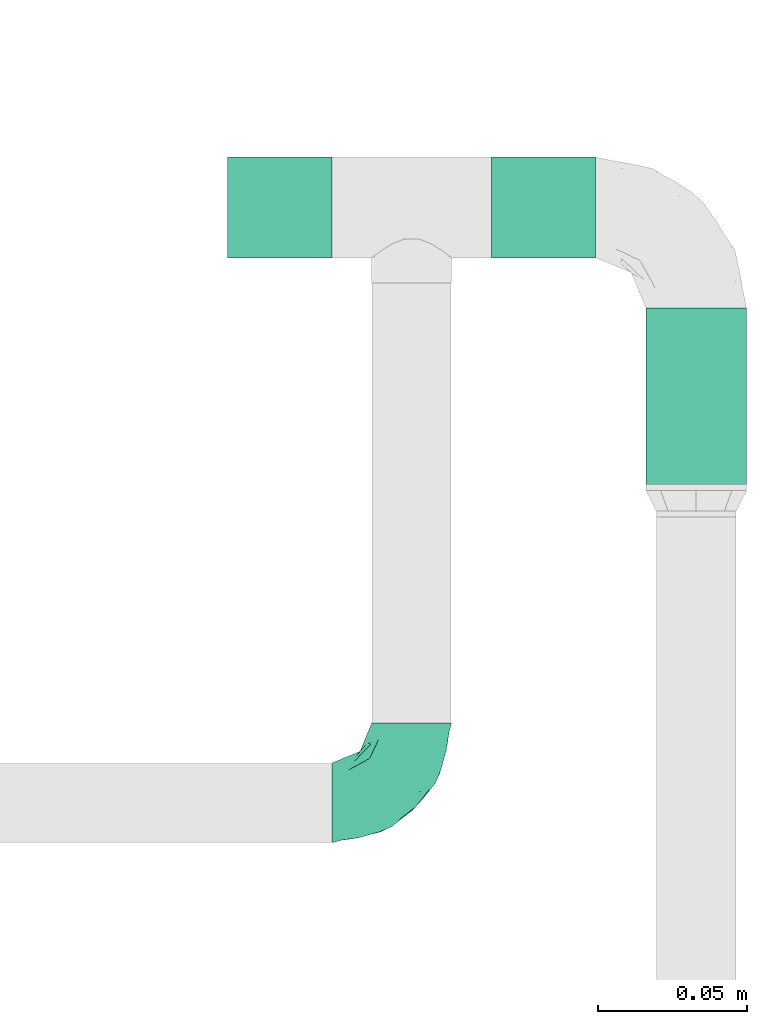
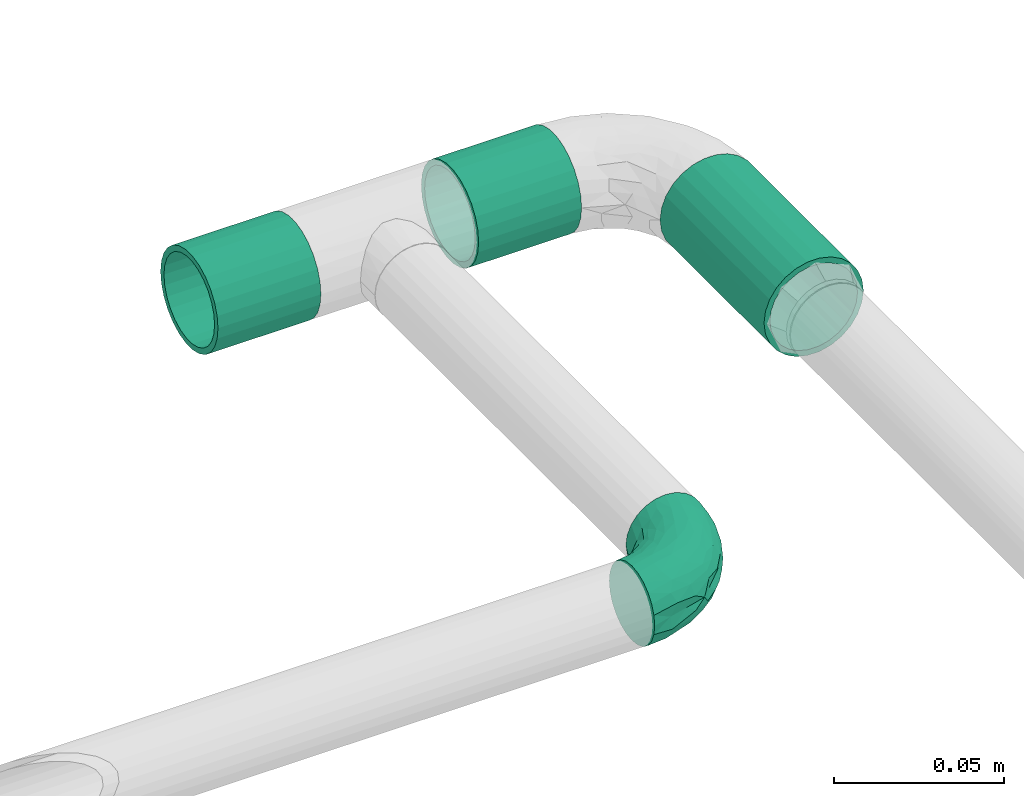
# One storey, part 9 of 13: 3 flow segments, 1 flow fitting.
"""IFC2X3 building model written with IfcOpenShell, lengths in millimetres."""

import ifcopenshell
import ifcopenshell.guid

model = None  # the IFC model being written
_history = None  # IfcOwnerHistory: only IFC2X3 demands one
_inside = {}  # id of a spatial element -> (the spatial element, [elements in it])
_under = {}  # id of a project, library or spatial element -> (it, [spatial elements below it])
_declared = {}  # id of a project -> (the project, [libraries it declares])
_typed = {}  # id of a type object -> (the type object, [elements of that type])
_made_of = {}  # id of a material, layer set ... -> (it, [elements and type objects made of it])


def new_model(schema):
    """Start an empty IFC model of exactly this schema.

    Asked for "IFC4X3", IfcOpenShell would pick the latest addendum, in which some entities
    have other attributes; the version numbers below select the first issue.
    IFC2X3 requires an IfcOwnerHistory on every rooted entity: one is made here for all.
    """
    global model, _history
    if schema == "IFC4X3":
        model = ifcopenshell.file(schema_version=(4, 3, 0, 0))
    else:
        model = ifcopenshell.file(schema=schema)
    _inside.clear()
    _under.clear()
    _declared.clear()
    _typed.clear()
    _made_of.clear()
    _history = None
    if model.schema == "IFC2X3":
        org = make("IfcOrganization", Name="unknown")
        user = make(
            "IfcPersonAndOrganization",
            ThePerson=make("IfcPerson", FamilyName="unknown"),
            TheOrganization=org,
        )
        app = make(
            "IfcApplication",
            ApplicationDeveloper=org,
            Version="unknown",
            ApplicationFullName="unknown",
            ApplicationIdentifier="unknown",
        )
        _history = make(
            "IfcOwnerHistory",
            OwningUser=user,
            OwningApplication=app,
            ChangeAction="ADDED",
            CreationDate=0,
        )
    return model


def make(cls, **values):
    """One entity of the class cls with the attributes given. An attribute that is None is left unset."""
    return model.create_entity(
        cls, **{name: value for name, value in values.items() if value is not None}
    )


def entity(cls, *values):
    """Any entity or typed value of the class cls, its attributes in the order of the schema. None: left unset."""
    e = model.create_entity(cls)
    for i, value in enumerate(values):
        if value is not None:
            e[i] = value
    return e


def rooted(cls, **values):
    """An entity with a GlobalId (a new one), such as an element, a storey or a relation."""
    return make(cls, GlobalId=ifcopenshell.guid.new(), OwnerHistory=_history, **values)


def si_unit(unit_type, name, prefix=None):
    """IfcSIUnit, for example si_unit("LENGTHUNIT", "METRE", prefix="MILLI")."""
    return make("IfcSIUnit", UnitType=unit_type, Prefix=prefix, Name=name)


def converted_unit(unit_type, name, factor, base, dimensions=None, offset=None):
    """IfcConversionBasedUnit, such as the inch: factor (a typed value) times the base unit."""
    return make(
        "IfcConversionBasedUnit"
        if offset is None
        else "IfcConversionBasedUnitWithOffset",
        ConversionOffset=offset,
        Dimensions=None
        if dimensions is None
        else entity("IfcDimensionalExponents", *dimensions),
        UnitType=unit_type,
        Name=name,
        ConversionFactor=make(
            "IfcMeasureWithUnit", ValueComponent=factor, UnitComponent=base
        ),
    )


def derived_unit(unit_type, elements):
    """IfcDerivedUnit: a product of units, each with its exponent."""
    return make(
        "IfcDerivedUnit",
        Elements=[
            make("IfcDerivedUnitElement", Unit=unit, Exponent=power)
            for unit, power in elements
        ],
        UnitType=unit_type,
    )


def assignment(units):
    """IfcUnitAssignment: the units of a project."""
    return None if units is None else make("IfcUnitAssignment", Units=units)


def point(xyz):
    """IfcCartesianPoint."""
    return None if xyz is None else make("IfcCartesianPoint", Coordinates=xyz)


def direction(xyz):
    """IfcDirection."""
    return None if xyz is None else make("IfcDirection", DirectionRatios=xyz)


def frame(location, z_axis=None, x_axis=None):
    """IfcAxis2Placement3D, a coordinate frame: its origin and axes. An axis left out is left unset."""
    return make(
        "IfcAxis2Placement3D",
        Location=point(location),
        Axis=direction(z_axis),
        RefDirection=direction(x_axis),
    )


def frame_2d(location, x_axis=None):
    """IfcAxis2Placement2D, a coordinate frame in the plane: its origin and x axis."""
    return make(
        "IfcAxis2Placement2D", Location=point(location), RefDirection=direction(x_axis)
    )


def origin_with_axes():
    """The frame at (0, 0, 0) with the z axis (0, 0, 1) and the x axis (1, 0, 0) written out."""
    return frame((0.0, 0.0, 0.0), z_axis=(0.0, 0.0, 1.0), x_axis=(1.0, 0.0, 0.0))


def origin_2d_with_axis():
    """The frame at (0, 0) in the plane with the x axis (1, 0) written out."""
    return frame_2d((0.0, 0.0), x_axis=(1.0, 0.0))


def place(relative_to, where):
    """IfcLocalPlacement: puts the frame where relative to a parent placement (None: the world)."""
    return make(
        "IfcLocalPlacement", PlacementRelTo=relative_to, RelativePlacement=where
    )


def context(
    kind, dimensions, precision=None, world=None, true_north=None, identifier=None
):
    """IfcGeometricRepresentationContext, for example the 3D "Model" context."""
    return make(
        "IfcGeometricRepresentationContext",
        ContextIdentifier=identifier,
        ContextType=kind,
        CoordinateSpaceDimension=dimensions,
        Precision=precision,
        WorldCoordinateSystem=world,
        TrueNorth=true_north,
    )


def subcontext(parent, identifier, kind, view, scale=None):
    """IfcGeometricRepresentationSubContext, for example "Body" below "Model"."""
    return make(
        "IfcGeometricRepresentationSubContext",
        ContextIdentifier=identifier,
        ContextType=kind,
        ParentContext=parent,
        TargetScale=scale,
        TargetView=view,
    )


def project(units=None, contexts=None):
    """IfcProject with its units and contexts."""
    return rooted(
        "IfcProject",
        Name="project",
        RepresentationContexts=contexts,
        UnitsInContext=assignment(units),
    )


def spatial(cls, under=None, at=None, **own):
    """A site, building, storey or space (cls), placed at a placement, below another one or the project."""
    s = rooted(cls, ObjectPlacement=at, **own)
    if under is not None:
        _under.setdefault(under.id(), (under, []))[1].append(s)
    return s


def profile(cls, at=None, kind="AREA", **sizes):
    """A parametric profile (cls). Its sizes go by their IFC names, for example OverallWidth=200.0."""
    return make(cls, ProfileType=kind, Position=at, **sizes)


def hollow_circle(**sizes):
    """IfcCircleHollowProfileDef."""
    return profile("IfcCircleHollowProfileDef", **sizes)


def extrude(swept, where, along, depth):
    """IfcExtrudedAreaSolid: the profile swept, set in the frame where, extruded along a direction by depth."""
    return make(
        "IfcExtrudedAreaSolid",
        SweptArea=swept,
        Position=where,
        ExtrudedDirection=direction(along),
        Depth=depth,
    )


def faces_of(points, faces, orient=None, outer=None):
    """IfcFace entities. A face is a list of loops; a loop is a list of indices into points, from 0.

    orient and outer hold one flag for each loop. By default every Orientation is true, the
    first loop of a face is its IfcFaceOuterBound and the others are IfcFaceBound.
    """
    made = []
    for i, loops in enumerate(faces):
        bounds = []
        for j, loop in enumerate(loops):
            is_outer = j == 0 if outer is None else outer[i][j]
            bounds.append(
                make(
                    "IfcFaceOuterBound" if is_outer else "IfcFaceBound",
                    Bound=make("IfcPolyLoop", Polygon=[points[k] for k in loop]),
                    Orientation=True if orient is None else orient[i][j],
                )
            )
        made.append(make("IfcFace", Bounds=bounds))
    return made


def open_shell(faces, orient=None, outer=None):
    """The faces of one IfcOpenShell. surface_model builds it on its shared points."""
    return ("IfcOpenShell", faces, orient, outer)


def surface_model(cls, points, shells):
    """IfcFaceBasedSurfaceModel or IfcShellBasedSurfaceModel (cls): surfaces that need not close."""
    shared = [point(p) for p in points]
    made = [make(c, CfsFaces=faces_of(shared, fs, o, b)) for c, fs, o, b in shells]
    if cls == "IfcFaceBasedSurfaceModel":
        return make(cls, FbsmFaces=made)
    return make(cls, SbsmBoundary=made)


def shape(context_of_items, identifier, shape_type, items):
    """IfcShapeRepresentation: the items that make up one representation, for example the "Body"."""
    return make(
        "IfcShapeRepresentation",
        ContextOfItems=context_of_items,
        RepresentationIdentifier=identifier,
        RepresentationType=shape_type,
        Items=items,
    )


def source(mapping_origin, context_of_items, identifier, shape_type, items):
    """IfcRepresentationMap: a shape defined once, which mapped items show again and again."""
    return make(
        "IfcRepresentationMap",
        MappingOrigin=mapping_origin,
        MappedRepresentation=shape(context_of_items, identifier, shape_type, items),
    )


def transform(
    local_origin,
    x_axis=None,
    y_axis=None,
    z_axis=None,
    scale=None,
    scale2=None,
    scale3=None,
    uniform=True,
):
    """IfcCartesianTransformationOperator3D, or its non-uniform kind. x_axis, y_axis, z_axis: its Axis1, 2, 3."""
    if uniform:
        return make(
            "IfcCartesianTransformationOperator3D",
            Axis1=direction(x_axis),
            Axis2=direction(y_axis),
            LocalOrigin=point(local_origin),
            Scale=scale,
            Axis3=direction(z_axis),
        )
    return make(
        "IfcCartesianTransformationOperator3DnonUniform",
        Axis1=direction(x_axis),
        Axis2=direction(y_axis),
        LocalOrigin=point(local_origin),
        Scale=scale,
        Axis3=direction(z_axis),
        Scale2=scale2,
        Scale3=scale3,
    )


def mapped(mapping_source, mapping_target):
    """IfcMappedItem: shows the shape of a source again, moved by a transform."""
    return make(
        "IfcMappedItem", MappingSource=mapping_source, MappingTarget=mapping_target
    )


def made_of(thing, what):
    """Note that an element or type object is made of a material, layer set ...; save() writes the relation."""
    if what is not None:
        _made_of.setdefault(what.id(), (what, []))[1].append(thing)
    return thing


def type_object(cls, material=None, **own):
    """A type object (cls), such as IfcWallType, which elements share."""
    return made_of(rooted(cls, **own), material)


def element(
    cls,
    number,
    at=None,
    inside=None,
    cuts=None,
    type_object=None,
    material=None,
    context=None,
    identifier="Body",
    shape_type=None,
    held_by="IfcProductDefinitionShape",
    body=None,
    shapes=None,
    **own,
):
    """One element of the class cls, such as IfcWall. Its Tag is "e" and its number.

    at: its placement. inside: the storey or other place that contains it. cuts: it is an
    opening in that element (IfcRelVoidsElement). A single representation is given by context,
    identifier, shape_type and body (its items); several are given by shapes. held_by: the class
    of the entity that holds the representations. save() writes the other relations.
    """
    e = rooted(cls, Tag="e%d" % number, ObjectPlacement=at, **own)
    if body is not None:
        shapes = [shape(context, identifier, shape_type, body)]
    if shapes is not None:
        e.Representation = make(held_by, Representations=shapes)
    if inside is not None:
        _inside.setdefault(inside.id(), (inside, []))[1].append(e)
    if cuts is not None:
        rooted(
            "IfcRelVoidsElement", RelatingBuildingElement=cuts, RelatedOpeningElement=e
        )
    if type_object is not None:
        _typed.setdefault(type_object.id(), (type_object, []))[1].append(e)
    return made_of(e, material)


def aggregate(whole, parts):
    """IfcRelAggregates: a whole, such as a stair, and the parts it consists of."""
    return rooted("IfcRelAggregates", RelatingObject=whole, RelatedObjects=parts)


def save(model, path):
    """Write the relations noted so far, then the file.

    IfcRelAggregates (storeys below a building ...), IfcRelContainedInSpatialStructure (elements
    in a storey), IfcRelDefinesByType, IfcRelAssociatesMaterial and IfcRelDeclares: one each for
    every whole, place, type object, material and project.
    """
    for whole, parts in _under.values():
        aggregate(whole, parts)
    for where, things in _inside.values():
        rooted(
            "IfcRelContainedInSpatialStructure",
            RelatedElements=things,
            RelatingStructure=where,
        )
    for kind, things in _typed.values():
        rooted("IfcRelDefinesByType", RelatedObjects=things, RelatingType=kind)
    for what, things in _made_of.values():
        rooted("IfcRelAssociatesMaterial", RelatedObjects=things, RelatingMaterial=what)
    for by, libraries in _declared.values():
        rooted("IfcRelDeclares", RelatingContext=by, RelatedDefinitions=libraries)
    model.write(path)


model = new_model("IFC2X3")

# Units and contexts
model_context = context("Model", 3, precision=0.01, world=frame((0.0, 4.29681676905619e-09, 0.0)), true_north=direction((4.01073788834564e-13, 1.0)))
plan_context = context("Plan", 3, precision=0.01, world=frame((0.0, 4.29681676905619e-09, 0.0)), true_north=direction((4.01073788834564e-13, 1.0)))
body_context = subcontext(model_context, "Body", "Model", "MODEL_VIEW")
ifc_project = project(units=[converted_unit("PLANEANGLEUNIT", "DEGREE", entity("IfcPositiveLengthMeasure", 0.0174532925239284), si_unit("PLANEANGLEUNIT", "RADIAN"), dimensions=[0, 0, 0, 0, 0, 0, 0]), si_unit("AREAUNIT", "SQUARE_METRE"), si_unit("LENGTHUNIT", "METRE", prefix="MILLI"), si_unit("MASSUNIT", "GRAM", prefix="KILO"), si_unit("POWERUNIT", "WATT"), si_unit("PRESSUREUNIT", "PASCAL", prefix="KILO"), si_unit("FORCEUNIT", "NEWTON", prefix="KILO"), si_unit("ELECTRICVOLTAGEUNIT", "VOLT"), si_unit("ELECTRICCURRENTUNIT", "AMPERE"), si_unit("THERMODYNAMICTEMPERATUREUNIT", "DEGREE_CELSIUS"), si_unit("TIMEUNIT", "SECOND"), si_unit("VOLUMEUNIT", "CUBIC_METRE"), derived_unit("LINEARVELOCITYUNIT", [(si_unit("LENGTHUNIT", "METRE"), 1), (si_unit("TIMEUNIT", "SECOND"), -1)]), derived_unit("VOLUMETRICFLOWRATEUNIT", [(si_unit("VOLUMEUNIT", "CUBIC_METRE"), 1), (si_unit("TIMEUNIT", "SECOND"), -1)]), derived_unit("THERMALTRANSMITTANCEUNIT", [(si_unit("POWERUNIT", "WATT"), 1), (si_unit("THERMODYNAMICTEMPERATUREUNIT", "KELVIN"), -1), (si_unit("AREAUNIT", "SQUARE_METRE"), -1)]), derived_unit("SOUNDPRESSUREUNIT", [(si_unit("PRESSUREUNIT", "PASCAL"), 1)])], contexts=[model_context, plan_context])

# Site, building, storey
site_placement = place(None, frame((0.0, -4.29681676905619e-09, 0.0), z_axis=(0.0, 0.0, 1.0), x_axis=(1.0, 0.0, 0.0)))
site = spatial("IfcSite", under=ifc_project, at=site_placement, Name="ENGM", CompositionType="ELEMENT")
building_placement = place(site_placement, frame((0.0, 4.29681676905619e-09, 0.0), z_axis=(0.0, 0.0, 1.0), x_axis=(1.0, 0.0, 0.0)))
building = spatial("IfcBuilding", under=site, at=building_placement, Name="TI", CompositionType="ELEMENT")
storey_placement = place(building_placement, frame((0.0, 0.0, 210900.0), z_axis=(0.0, 0.0, 1.0), x_axis=(1.0, 0.0, 0.0)))
storey = spatial("IfcBuildingStorey", under=building, at=storey_placement, Name="Nivå F", CompositionType="ELEMENT", Elevation=210900.0)

# Flow fitting
pipe_fitting_type = type_object("IfcPipeFittingType", Name="magi_pipe_fe_elbow_short_001", PredefinedType="BEND")
shared_shape_1 = source(origin_with_axes(), body_context, "Body", "SurfaceModel", [
    surface_model("IfcShellBasedSurfaceModel", [(-26.8, 3.46818, -12.94341), (-26.8, 0.0, -13.4), (-26.8, 9.47523, -9.47523), (-26.8, 6.7, -11.60474), (-26.8, 12.94341, -3.46818), (-26.8, 11.60474, -6.7), (-26.8, -6.7, 11.60474), (-26.8, -12.94341, -3.46818), (-26.8, -9.47523, -9.47523), (-26.8, -6.7, -11.60474), (-26.8, -3.46818, -12.94341), (-26.8, -11.60474, -6.7), (-26.8, -13.4, 0.0), (-26.8, 9.47523, 9.47523), (-26.8, 12.94341, 3.46818), (-26.8, 11.60474, 6.7), (-26.8, 3.46818, 12.94341), (-26.8, 6.7, 11.60474), (-26.8, -11.60474, 6.7), (-26.8, -9.47523, 9.47523), (-26.8, -12.94341, 3.46818), (-26.8, -3.46818, 12.94341), (-26.8, 0.0, 13.4), (-26.8, 13.4, 0.0), (-9.47523, 26.8, -9.47523), (0.0, 26.8, -13.4), (-3.46818, 26.8, -12.94341), (-6.7, 26.8, -11.60474), (-11.60474, 26.8, -6.7), (-12.94341, 26.8, -3.46818), (12.94341, 26.8, -3.46818), (6.7, 26.8, 11.60474), (6.7, 26.8, -11.60474), (9.47523, 26.8, -9.47523), (3.46818, 26.8, -12.94341), (11.60474, 26.8, -6.7), (13.4, 26.8, 0.0), (-12.94341, 26.8, 3.46818), (-9.47523, 26.8, 9.47523), (-11.60474, 26.8, 6.7), (-6.7, 26.8, 11.60474), (-3.46818, 26.8, 12.94341), (12.94341, 26.8, 3.46818), (9.47523, 26.8, 9.47523), (11.60474, 26.8, 6.7), (3.46818, 26.8, 12.94341), (0.0, 26.8, 13.4), (-13.4, 26.8, 0.0), (-17.94383, -11.72186, 4.19396), (-19.61933, -10.40522, 7.51874), (-14.00394, -9.97131, 0.0), (-10.88146, -9.75217, 2.96415), (5.6402, 4.14256, 4.06277), (2.9355, 3.86758, 7.99817), (-0.16552, -0.70254, 6.90229), (-11.69279, -8.47867, 6.74741), (-3.60975, -5.23517, 4.12915), (-20.40197, -11.68565, 0.0), (6.07727, 10.7767, 9.16668), (7.71917, 17.5318, 9.98024), (3.23022, 10.34855, 11.14395), (-17.5318, -7.71917, 9.98024), (-19.6814, -5.06542, 12.05518), (-20.47091, -1.77513, 13.17083), (-18.76435, 2.05404, 13.37716), (-10.34855, -3.23022, 11.14395), (-13.34095, -0.12025, 12.98799), (-20.6562, 5.25542, 12.65822), (-21.01515, 11.15223, 8.78653), (-19.1981, 14.0055, 6.12639), (-23.45804, 12.58298, 5.55254), (-13.79572, 19.62699, 6.0655), (-4.65712, 13.17755, 13.37596), (-9.92557, 9.92557, 13.07441), (-7.97904, 5.85569, 13.33097), (-14.12498, 14.96497, 9.49183), (-23.18377, 8.11481, 10.91864), (-3.49778, 8.97497, 13.15743), (-6.65819, 2.45826, 12.5129), (-1.36893, 7.23965, 12.31444), (-22.3163, 13.71444, 3.37662), (-20.76788, 15.89859, 0.0), (-5.00198, 23.11411, 12.55149), (-1.83653, 20.04451, 13.36709), (5.06542, 19.6814, 12.05518), (-4.60225, -3.19632, 8.30444), (-2.39362, 2.39362, 10.95564), (1.77513, 20.47091, 13.17083), (10.40522, 19.61933, 7.51874), (8.47867, 11.69279, 6.74741), (11.72186, 17.94383, 4.19396), (-10.7767, -6.07727, 9.16668), (-14.71477, 20.20527, 3.11661), (-18.32912, 15.92283, 3.19527), (9.75217, 10.88146, 2.96415), (9.97131, 14.00394, 0.0), (11.68565, 20.40197, 0.0), (-17.32477, 17.32477, 0.0), (8.01422, 6.7, 0.0), (-11.0099, 17.80242, 10.25412), (-8.46783, 20.75346, 11.10693), (-11.06207, 21.36651, 8.74797), (-10.13559, 14.48567, 11.94159), (-5.79525, 18.15733, 12.76163), (-14.31139, 12.02432, 11.13575), (-6.7, -8.01422, 0.0), (-14.72492, 5.73985, 13.1602), (-13.14892, 3.28357, 13.39428), (-14.24576, 9.09225, 12.39421), (-7.80572, 13.90987, 12.83655), (0.12025, 13.34095, 12.98799), (-18.45241, 9.09615, 11.28418), (-1.02036, 0.84565, 9.15855), (-3.66591, -4.13183, 6.30134), (-3.02144, -4.33567, 0.0), (1.56761, -1.1228, 3.23127), (-15.89859, 20.76788, 0.0), (4.33567, 3.02144, 0.0), (0.65711, -0.65711, 0.0), (-21.21323, 1.69434, -13.35639), (-11.59215, 19.61477, -8.94181), (-19.9553, -12.05444, -4.41231), (-20.61911, 5.26132, -12.65979), (-18.29002, 15.89425, -3.37935), (-10.94714, -3.38176, -11.24231), (-11.6358, -0.16715, -12.74497), (-5.38395, -0.22423, -10.97991), (-19.45447, 8.78609, -11.20697), (-21.18665, 11.10723, -8.76769), (8.05635, 19.80434, -10.14754), (-16.16073, 12.27967, -10.10626), (-10.65974, -9.81032, -2.24682), (-4.63434, -6.26604, -3.21731), (-12.41035, 15.57424, -10.31822), (-9.54276, 16.38525, -11.6371), (-12.38435, 12.38435, -11.76567), (-1.18054, -2.52878, -5.66699), (1.17703, 2.36499, -8.51656), (4.94456, 3.94062, -5.27361), (-13.23013, 7.7548, -12.95755), (-18.92609, -10.30887, -7.4546), (-19.80434, -8.05635, -10.14754), (-5.46999, 19.49566, -12.70683), (12.05444, 19.9553, -4.41231), (-22.63124, -5.28269, -12.19553), (-11.57403, -7.91736, -7.4927), (-10.00514, -5.4662, -9.37392), (0.56412, 6.29454, -11.17498), (0.16715, 11.6358, -12.74497), (2.76952, 11.43973, -11.70622), (-22.71135, 13.83144, -2.294), (-13.13887, 21.26515, -5.84046), (-14.02683, 21.74629, -2.98452), (10.30887, 18.92609, -7.4546), (-4.73052, 4.73052, -12.6532), (-16.28385, 15.93209, -6.57302), (-1.69434, 21.21323, -13.35639), (-8.4106, 21.03687, -11.08508), (1.68957, 19.74249, -13.15499), (5.28269, 22.63124, -12.19553), (-19.74249, -1.68957, -13.15499), (-16.96978, -4.62448, -11.91765), (-3.16773, 14.76219, -13.39711), (-7.24575, 7.81916, -13.39239), (-7.92886, 12.7032, -13.00116), (-6.57993, -6.26304, -6.05124), (9.46363, 9.95483, -2.39006), (6.59847, 4.89531, -2.6225), (0.29079, -2.47661, -2.876), (-21.42347, 13.17132, -5.65321), (9.35918, 11.66841, -5.08525), (8.33374, 12.94014, -7.69724), (5.4662, 10.00514, -9.37392), (4.62448, 16.96978, -11.91765), (-3.89324, -2.60816, -8.35445), (5.97121, 7.49007, -7.29975), (-14.76219, 3.16773, -13.39711), (-15.36238, 22.06238, 0.0), (-11.66841, -9.35918, -5.08525), (3.63632, 1.19488, -3.35093), (-14.94382, 15.17624, -8.6945)], [open_shell([[[0, 1, 2]], [[3, 0, 2]], [[4, 5, 2]], [[1, 4, 2]], [[6, 1, 7]], [[8, 7, 9]], [[1, 10, 9]], [[11, 7, 8]], [[9, 7, 1]], [[12, 6, 7]], [[4, 1, 6]], [[13, 14, 4]], [[15, 14, 13]], [[16, 17, 13]], [[13, 4, 16]], [[4, 6, 16]], [[18, 19, 20]], [[19, 12, 20]], [[6, 21, 16]], [[19, 6, 12]], [[16, 21, 22]], [[23, 4, 14]], [[24, 25, 26]], [[24, 26, 27]], [[24, 28, 29]], [[24, 29, 25]], [[30, 25, 31]], [[32, 30, 33]], [[32, 34, 25]], [[33, 30, 35]], [[25, 30, 32]], [[30, 31, 36]], [[31, 25, 29]], [[29, 37, 38]], [[38, 37, 39]], [[38, 40, 41]], [[41, 29, 38]], [[41, 31, 29]], [[42, 43, 44]], [[42, 36, 43]], [[41, 45, 31]], [[36, 31, 43]], [[46, 45, 41]], [[37, 29, 47]], [[48, 49, 18]], [[48, 50, 51]], [[52, 53, 54]], [[55, 51, 56]], [[49, 19, 18]], [[57, 48, 20]], [[58, 59, 60]], [[61, 6, 19]], [[61, 62, 6]], [[22, 63, 64]], [[62, 65, 66]], [[59, 43, 31]], [[22, 21, 63]], [[67, 17, 16]], [[68, 69, 70]], [[39, 37, 71]], [[72, 73, 74]], [[69, 68, 75]], [[22, 64, 16]], [[17, 76, 13]], [[15, 13, 68]], [[77, 78, 79]], [[80, 81, 23]], [[41, 82, 83]], [[31, 84, 59]], [[85, 86, 65]], [[45, 46, 87]], [[88, 89, 90]], [[91, 65, 61]], [[46, 41, 83]], [[71, 92, 93]], [[90, 94, 95]], [[84, 31, 45]], [[88, 90, 44]], [[59, 84, 60]], [[42, 44, 90]], [[75, 71, 69]], [[6, 62, 21]], [[90, 96, 42]], [[97, 81, 93]], [[94, 98, 95]], [[92, 97, 93]], [[50, 48, 57]], [[70, 14, 15]], [[99, 100, 101]], [[38, 101, 100]], [[40, 38, 100]], [[102, 103, 100]], [[103, 72, 83]], [[82, 100, 103]], [[82, 41, 40]], [[99, 104, 102]], [[23, 14, 80]], [[67, 16, 64]], [[51, 50, 105]], [[48, 18, 20]], [[49, 55, 61]], [[44, 43, 88]], [[89, 52, 94]], [[106, 107, 74]], [[108, 67, 106]], [[38, 39, 101]], [[109, 102, 73]], [[103, 109, 72]], [[87, 83, 110]], [[76, 68, 13]], [[68, 111, 104]], [[65, 62, 61]], [[63, 62, 66]], [[91, 61, 55]], [[65, 86, 78]], [[87, 84, 45]], [[110, 79, 60]], [[110, 60, 84]], [[86, 112, 60]], [[55, 49, 48]], [[61, 19, 49]], [[43, 59, 88]], [[89, 88, 59]], [[106, 67, 64]], [[76, 67, 111]], [[53, 52, 89]], [[112, 86, 85]], [[56, 113, 55]], [[112, 54, 53]], [[58, 89, 59]], [[56, 51, 105]], [[114, 115, 56]], [[14, 70, 80]], [[69, 71, 93]], [[47, 116, 92]], [[92, 116, 97]], [[39, 71, 101]], [[75, 101, 71]], [[99, 102, 100]], [[108, 104, 111]], [[106, 74, 73]], [[110, 83, 72]], [[78, 74, 66]], [[72, 74, 77]], [[83, 87, 46]], [[84, 87, 110]], [[62, 63, 21]], [[64, 63, 66]], [[20, 12, 57]], [[96, 90, 95]], [[96, 36, 42]], [[115, 117, 52]], [[56, 105, 114]], [[55, 48, 51]], [[89, 94, 90]], [[52, 98, 94]], [[106, 64, 107]], [[108, 106, 73]], [[102, 108, 73]], [[67, 108, 111]], [[102, 104, 108]], [[68, 104, 75]], [[64, 66, 107]], [[66, 74, 107]], [[65, 78, 66]], [[79, 78, 86]], [[60, 79, 86]], [[77, 79, 110]], [[72, 77, 110]], [[78, 77, 74]], [[67, 76, 17]], [[68, 76, 111]], [[100, 82, 40]], [[83, 82, 103]], [[68, 70, 15]], [[80, 69, 93]], [[69, 80, 70]], [[80, 93, 81]], [[55, 85, 91]], [[85, 65, 91]], [[60, 53, 58]], [[53, 89, 58]], [[54, 112, 85]], [[60, 112, 53]], [[85, 113, 54]], [[113, 115, 54]], [[55, 113, 85]], [[115, 113, 56]], [[71, 37, 92]], [[115, 114, 118]], [[47, 92, 37]], [[101, 75, 99]], [[99, 75, 104]], [[72, 109, 73]], [[103, 102, 109]], [[54, 115, 52]], [[117, 115, 118]], [[117, 98, 52]], [[0, 119, 1]], [[28, 24, 120]], [[121, 57, 7]], [[3, 122, 0]], [[97, 123, 81]], [[124, 125, 126]], [[127, 2, 128]], [[33, 129, 32]], [[127, 128, 130]], [[131, 132, 105]], [[133, 134, 135]], [[127, 3, 2]], [[136, 137, 138]], [[139, 122, 127]], [[2, 5, 128]], [[11, 140, 121]], [[141, 140, 8]], [[26, 142, 27]], [[95, 143, 96]], [[144, 9, 10]], [[145, 141, 146]], [[30, 36, 96]], [[147, 148, 149]], [[140, 11, 8]], [[23, 81, 150]], [[130, 133, 135]], [[151, 152, 29]], [[153, 35, 143]], [[147, 154, 148]], [[29, 28, 151]], [[120, 155, 151]], [[33, 153, 129]], [[25, 156, 26]], [[26, 156, 142]], [[143, 35, 30]], [[24, 27, 157]], [[123, 152, 155]], [[158, 34, 159]], [[144, 160, 161]], [[122, 3, 127]], [[148, 162, 158]], [[157, 27, 142]], [[162, 163, 164]], [[159, 34, 32]], [[165, 136, 132]], [[35, 153, 33]], [[166, 98, 167]], [[160, 10, 1]], [[161, 160, 125]], [[95, 166, 143]], [[50, 131, 105]], [[121, 7, 11]], [[168, 114, 132]], [[150, 169, 4]], [[167, 98, 117]], [[34, 158, 25]], [[164, 142, 162]], [[133, 157, 134]], [[8, 9, 141]], [[165, 145, 146]], [[170, 171, 153]], [[129, 172, 173]], [[126, 137, 174]], [[175, 137, 172]], [[148, 158, 173]], [[156, 158, 162]], [[149, 172, 147]], [[148, 154, 163]], [[119, 160, 1]], [[176, 163, 125]], [[176, 125, 160]], [[125, 154, 126]], [[169, 128, 5]], [[127, 130, 135]], [[139, 127, 135]], [[119, 122, 176]], [[120, 151, 28]], [[152, 97, 177]], [[142, 164, 134]], [[120, 24, 157]], [[152, 47, 29]], [[81, 123, 150]], [[123, 155, 169]], [[152, 123, 97]], [[140, 178, 121]], [[121, 178, 131]], [[144, 141, 9]], [[146, 141, 161]], [[30, 96, 143]], [[170, 153, 143]], [[129, 153, 171]], [[159, 129, 173]], [[137, 147, 172]], [[126, 154, 147]], [[172, 171, 175]], [[174, 137, 136]], [[137, 126, 147]], [[126, 146, 124]], [[117, 118, 179]], [[179, 138, 167]], [[128, 169, 155]], [[5, 4, 169]], [[57, 121, 50]], [[57, 12, 7]], [[122, 119, 0]], [[160, 119, 176]], [[158, 156, 25]], [[142, 156, 162]], [[162, 148, 163]], [[139, 135, 164]], [[125, 163, 154]], [[139, 163, 176]], [[163, 139, 164]], [[122, 139, 176]], [[155, 180, 128]], [[180, 120, 133]], [[180, 133, 130]], [[157, 133, 120]], [[142, 134, 157]], [[164, 135, 134]], [[128, 180, 130]], [[120, 180, 155]], [[152, 151, 155]], [[47, 152, 177]], [[169, 150, 123]], [[23, 150, 4]], [[121, 131, 50]], [[178, 165, 132]], [[178, 132, 131]], [[168, 132, 136]], [[145, 165, 178]], [[174, 165, 146]], [[178, 140, 145]], [[141, 145, 140]], [[179, 136, 138]], [[170, 166, 167]], [[168, 179, 118]], [[170, 167, 138]], [[143, 166, 170]], [[95, 98, 166]], [[117, 179, 167]], [[136, 179, 168]], [[129, 159, 32]], [[158, 159, 173]], [[160, 144, 10]], [[141, 144, 161]], [[175, 170, 138]], [[129, 171, 172]], [[170, 175, 171]], [[137, 175, 138]], [[148, 173, 149]], [[172, 149, 173]], [[165, 174, 136]], [[126, 174, 146]], [[146, 161, 124]], [[125, 124, 161]], [[114, 168, 118]], [[114, 105, 132]]])]),
])
flow_fitting_placement = place(storey_placement, frame((598765.57776, 571276.94171, -48.6000000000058), z_axis=(0.0, 0.0, 1.0), x_axis=(1.0, 0.0, 0.0)))
element("IfcFlowFitting", 1, at=flow_fitting_placement, inside=storey, type_object=pipe_fitting_type, Name="magi_pipe_fe_elbow_short_001", context=body_context, shape_type="MappedRepresentation", body=[
    mapped(shared_shape_1, transform((0.0, 0.0, 0.0), scale=1.0)),
])

# Flow segments
pipe_segment_type = type_object("IfcPipeSegmentType", Name="Stålrør normaltykke", PredefinedType="RIGIDSEGMENT")
shared_shape_2 = source(origin_with_axes(), body_context, "Body", "SweptSolid", [
    extrude(hollow_circle(Radius=16.9, WallThickness=2.0, at=origin_2d_with_axis()), frame((0.0, 0.0, 0.0), z_axis=(1.0, 0.0, 0.0), x_axis=(0.0, 1.0, 0.0)), (0.0, 0.0, 1.0), 35.0),
])
for number, where, z_axis, x_axis in (
    (2, (598792.37776, 571476.9417, -48.6000000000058), (0.0, 0.0, 1.0), (1.0, 0.0, 0.0)),
    (3, (598703.77776, 571476.94173, -48.6000000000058), (0.0, 0.0, 1.0), (1.0, 0.0, 0.0)),
):
    element("IfcFlowSegment", number, at=place(storey_placement, frame(where, z_axis=z_axis, x_axis=x_axis)), inside=storey, type_object=pipe_segment_type, Name="Stålrør normaltykke", context=body_context, shape_type="MappedRepresentation", body=[
        mapped(shared_shape_2, transform((0.0, 0.0, 0.0), scale=1.0)),
    ])
shared_shape_3 = source(origin_with_axes(), body_context, "Body", "SweptSolid", [
    extrude(hollow_circle(Radius=16.9, WallThickness=2.0, at=origin_2d_with_axis()), frame((0.0, 0.0, 0.0), z_axis=(1.0, 0.0, 0.0), x_axis=(0.0, 1.0, 0.0)), (0.0, 0.0, 1.0), 61.2),
])
flow_segment_placement = place(storey_placement, frame((598861.17776, 571443.14169, -48.6000000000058), z_axis=(0.0, 0.0, 1.0), x_axis=(0.0, -1.0, 0.0)))
element("IfcFlowSegment", 4, at=flow_segment_placement, inside=storey, type_object=pipe_segment_type, Name="Stålrør normaltykke", context=body_context, shape_type="MappedRepresentation", body=[
    mapped(shared_shape_3, transform((0.0, 0.0, 0.0), scale=1.0)),
])

save(model, "model.ifc")
